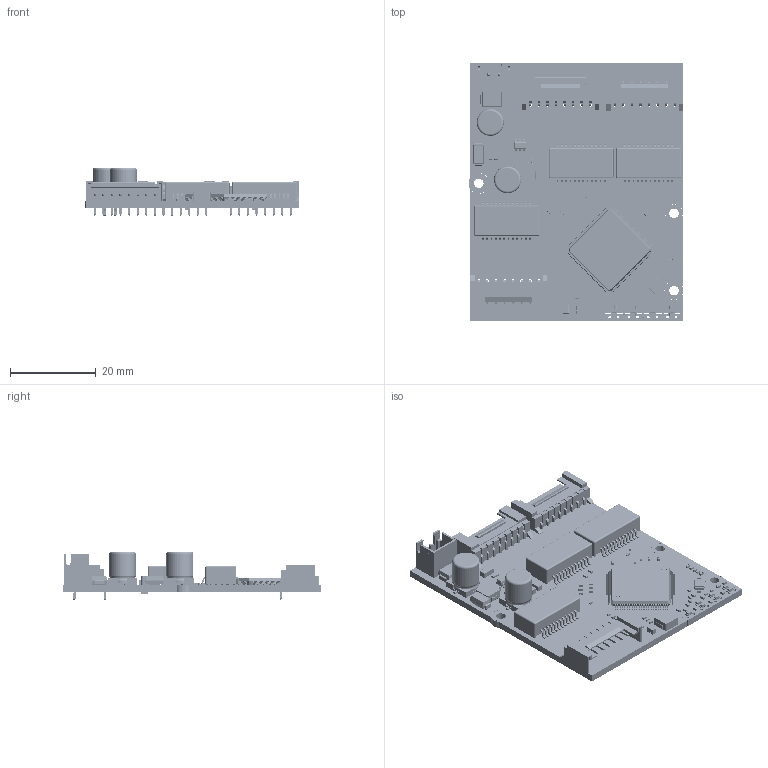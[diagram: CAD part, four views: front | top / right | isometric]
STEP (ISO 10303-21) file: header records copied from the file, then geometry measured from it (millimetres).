
FILE_DESCRIPTION(('Designed by EasyEDA Pro'),'2;1');
FILE_NAME('Open CASCADE Shape Model','2024-01-17T15:02:35',('Author'),( 'Open CASCADE'),'Open CASCADE STEP processor 7.6','Open CASCADE 7.6' ,'Unknown');
FILE_SCHEMA(('AUTOMOTIVE_DESIGN { 1 0 10303 214 1 1 1 1 }'));
Length unit declared in the file: millimetre
Products named in the file (126): PCBModel; Board; C4; 12060; SOLID; C6; C1; C37; 04020; C39; R10; R11; R12; R13; R15; R16; R17; R18; R19; R2; R204; R38; R5; R63; R72; R73; R75; R9; C100; C04020; C101; C102; C103; C104; C105; C106; C107; C108; C109; C110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
Assembly tree (189 placements, depth 4):
  PCBModel
    Board
    C4
      12060
        SOLID
    C6
      12060
        SOLID
    C1
      12060
        SOLID
    C37
      04020
        SOLID
    C39
      04020
        SOLID
    R10
      04020
        SOLID
    R11
      04020
        SOLID
    R12
      04020
        SOLID
    R13
      04020
        SOLID
    R15
      04020
        SOLID
    R16
      04020
        SOLID
    R17
      04020
        SOLID
    R18
      04020
        SOLID
    R19
      04020
        SOLID
    R2
      04020
        SOLID
    R204
      04020
        SOLID
    R38
      04020
        SOLID
    R5
      04020
        SOLID
    R63
      04020
        SOLID
    R72
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Bounding box: 50.09 x 60 x 11.25 mm (x, y, z)
Volume: 8092.2 mm3; surface area: 12862.4 mm2
Topology: 229 solids, 229 shells, 33275 faces, 89259 edges, 58130 vertices
Faces by surface type: plane 19390, bspline 9261, cylinder 3974, sphere 558, torus 92
Full cylindrical faces by diameter (mm): 0.6 x8, 0.9 x2, 2.1 x3, 2.2 x1, 2.54 x1
Entity records: 406056 total; most frequent: CARTESIAN_POINT 100803, ORIENTED_EDGE 52918, DIRECTION 39524, EDGE_CURVE 26459, LINE 18620, VECTOR 18620, VERTEX_POINT 17284, FACE_BOUND 10501
